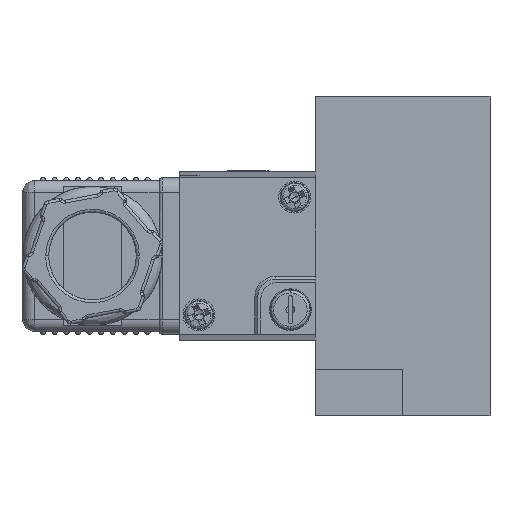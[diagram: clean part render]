
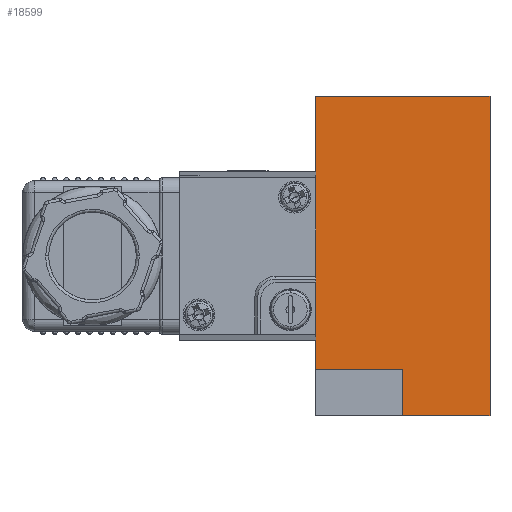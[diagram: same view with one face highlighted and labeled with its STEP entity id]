
A CAD part, left-side view. The second image highlights one B-rep face of the part: STEP entity #18599.
In plain terms, the highlighted planar face has unit normal (-1, 0, 0).
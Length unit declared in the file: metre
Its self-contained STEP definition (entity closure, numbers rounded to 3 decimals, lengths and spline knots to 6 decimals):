
#124 = DIRECTION ( 'NONE',  ( 0., 0., 1. ) ) ;
#461 = CARTESIAN_POINT ( 'NONE',  ( -0.034, -0.015, 0.0275 ) ) ;
#664 = CARTESIAN_POINT ( 'NONE',  ( -0.034, 0., -0.0195 ) ) ;
#802 = DIRECTION ( 'NONE',  ( 1., 0., 0. ) ) ;
#1090 = CARTESIAN_POINT ( 'NONE',  ( -0.034, 0., -0.0275 ) ) ;
#1929 = VERTEX_POINT ( 'NONE', #24457 ) ;
#2239 = VECTOR ( 'NONE', #22675, 1. ) ;
#2398 = ORIENTED_EDGE ( 'NONE', *, *, #4571, .T. ) ;
#2801 = CARTESIAN_POINT ( 'NONE',  ( -0.034, -0.015, 0.0275 ) ) ;
#3678 = CARTESIAN_POINT ( 'NONE',  ( -0.034, 0.015, -0.0195 ) ) ;
#4031 = EDGE_CURVE ( 'NONE', #4372, #9616, #6891, .T. ) ;
#4295 = LINE ( 'NONE', #1090, #24357 ) ;
#4372 = VERTEX_POINT ( 'NONE', #664 ) ;
#4571 = EDGE_CURVE ( 'NONE', #19434, #15219, #15975, .T. ) ;
#5140 = VERTEX_POINT ( 'NONE', #7690 ) ;
#5455 = ORIENTED_EDGE ( 'NONE', *, *, #10837, .F. ) ;
#6426 = ORIENTED_EDGE ( 'NONE', *, *, #10282, .T. ) ;
#6891 = LINE ( 'NONE', #22710, #2239 ) ;
#7690 = CARTESIAN_POINT ( 'NONE',  ( -0.034, 0., -0.0275 ) ) ;
#9616 = VERTEX_POINT ( 'NONE', #3678 ) ;
#9620 = DIRECTION ( 'NONE',  ( 0., 0., -1. ) ) ;
#9987 = CARTESIAN_POINT ( 'NONE',  ( -0.034, 0., 0.0275 ) ) ;
#10282 = EDGE_CURVE ( 'NONE', #15219, #9616, #15082, .T. ) ;
#10469 = DIRECTION ( 'NONE',  ( 0., 1., 0. ) ) ;
#10837 = EDGE_CURVE ( 'NONE', #5140, #4372, #24037, .T. ) ;
#11118 = AXIS2_PLACEMENT_3D ( 'NONE', #2801, #802, #20852 ) ;
#11368 = VECTOR ( 'NONE', #21228, 1. ) ;
#13093 = VECTOR ( 'NONE', #124, 1. ) ;
#13646 = CARTESIAN_POINT ( 'NONE',  ( -0.034, 0.015, 0. ) ) ;
#14951 = EDGE_CURVE ( 'NONE', #19434, #1929, #22064, .T. ) ;
#15082 = LINE ( 'NONE', #13646, #25083 ) ;
#15114 = EDGE_LOOP ( 'NONE', ( #15377, #5455, #15910, #20321, #2398, #6426 ) ) ;
#15219 = VERTEX_POINT ( 'NONE', #20061 ) ;
#15344 = VECTOR ( 'NONE', #10469, 1. ) ;
#15377 = ORIENTED_EDGE ( 'NONE', *, *, #4031, .F. ) ;
#15910 = ORIENTED_EDGE ( 'NONE', *, *, #20716, .F. ) ;
#15975 = LINE ( 'NONE', #9987, #15344 ) ;
#16101 = CARTESIAN_POINT ( 'NONE',  ( -0.034, 0., 0. ) ) ;
#18599 = ADVANCED_FACE ( 'NONE', ( #24423 ), #18841, .F. ) ;
#18841 = PLANE ( 'NONE',  #11118 ) ;
#19195 = CARTESIAN_POINT ( 'NONE',  ( -0.034, -0.015, 0. ) ) ;
#19434 = VERTEX_POINT ( 'NONE', #461 ) ;
#20061 = CARTESIAN_POINT ( 'NONE',  ( -0.034, 0.015, 0.0275 ) ) ;
#20321 = ORIENTED_EDGE ( 'NONE', *, *, #14951, .F. ) ;
#20716 = EDGE_CURVE ( 'NONE', #1929, #5140, #4295, .T. ) ;
#20852 = DIRECTION ( 'NONE',  ( 0., 0., -1. ) ) ;
#21228 = DIRECTION ( 'NONE',  ( 0., 0., -1. ) ) ;
#22064 = LINE ( 'NONE', #19195, #11368 ) ;
#22675 = DIRECTION ( 'NONE',  ( 0., 1., 0. ) ) ;
#22710 = CARTESIAN_POINT ( 'NONE',  ( -0.034, 0., -0.0195 ) ) ;
#24037 = LINE ( 'NONE', #16101, #13093 ) ;
#24357 = VECTOR ( 'NONE', #25094, 1. ) ;
#24423 = FACE_OUTER_BOUND ( 'NONE', #15114, .T. ) ;
#24457 = CARTESIAN_POINT ( 'NONE',  ( -0.034, -0.015, -0.0275 ) ) ;
#25083 = VECTOR ( 'NONE', #9620, 1. ) ;
#25094 = DIRECTION ( 'NONE',  ( 0., 1., 0. ) ) ;
